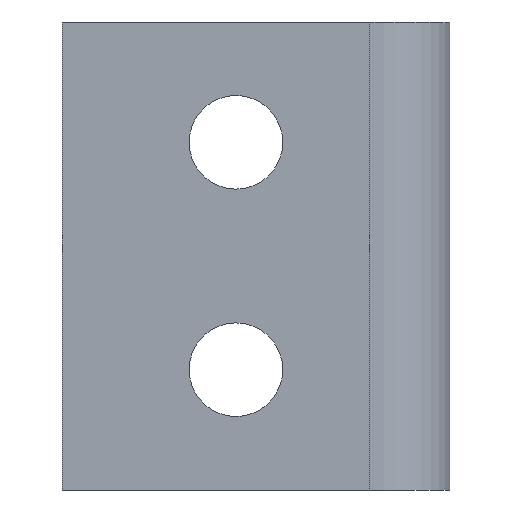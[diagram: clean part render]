
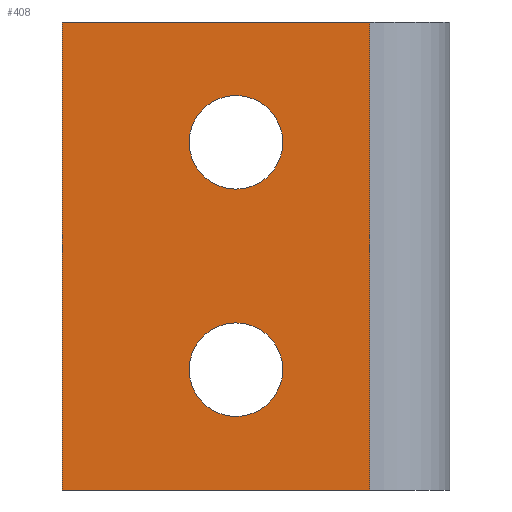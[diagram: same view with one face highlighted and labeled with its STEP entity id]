
A CAD part, front view. The second image highlights one B-rep face of the part: STEP entity #408.
In plain terms, the highlighted planar face has unit normal (0, -1, 0).
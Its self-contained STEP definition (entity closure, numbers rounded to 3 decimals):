
#1 = VECTOR ( 'NONE', #251, 1000. ) ;
#7 = DIRECTION ( 'NONE',  ( 0., 0., 1. ) ) ;
#42 = ORIENTED_EDGE ( 'NONE', *, *, #132, .T. ) ;
#43 = CARTESIAN_POINT ( 'NONE',  ( 13., 0., -5.5 ) ) ;
#50 = LINE ( 'NONE', #204, #157 ) ;
#55 = AXIS2_PLACEMENT_3D ( 'NONE', #166, #167, #114 ) ;
#56 = EDGE_LOOP ( 'NONE', ( #42 ) ) ;
#65 = EDGE_CURVE ( 'NONE', #125, #144, #258, .T. ) ;
#70 = DIRECTION ( 'NONE',  ( 0., 0., 1. ) ) ;
#72 = CARTESIAN_POINT ( 'NONE',  ( 23., 0., -35. ) ) ;
#74 = CARTESIAN_POINT ( 'NONE',  ( 23., 0., -35. ) ) ;
#79 = DIRECTION ( 'NONE',  ( 0., -1., 0. ) ) ;
#82 = ORIENTED_EDGE ( 'NONE', *, *, #107, .T. ) ;
#87 = CARTESIAN_POINT ( 'NONE',  ( 0., 0., -35. ) ) ;
#105 = CARTESIAN_POINT ( 'NONE',  ( 23., 0., 0. ) ) ;
#107 = EDGE_CURVE ( 'NONE', #226, #125, #290, .T. ) ;
#114 = DIRECTION ( 'NONE',  ( 0., 0., 1. ) ) ;
#125 = VERTEX_POINT ( 'NONE', #72 ) ;
#132 = EDGE_CURVE ( 'NONE', #229, #229, #400, .T. ) ;
#139 = DIRECTION ( 'NONE',  ( 1., 0., 0. ) ) ;
#144 = VERTEX_POINT ( 'NONE', #105 ) ;
#157 = VECTOR ( 'NONE', #7, 1000. ) ;
#166 = CARTESIAN_POINT ( 'NONE',  ( 13., 0., -9. ) ) ;
#167 = DIRECTION ( 'NONE',  ( 0., 1., 0. ) ) ;
#178 = CARTESIAN_POINT ( 'NONE',  ( 0., 0., 0. ) ) ;
#179 = ORIENTED_EDGE ( 'NONE', *, *, #224, .F. ) ;
#182 = ORIENTED_EDGE ( 'NONE', *, *, #344, .F. ) ;
#186 = ORIENTED_EDGE ( 'NONE', *, *, #65, .T. ) ;
#204 = CARTESIAN_POINT ( 'NONE',  ( 0., 0., -35. ) ) ;
#208 = CARTESIAN_POINT ( 'NONE',  ( 0., 0., -35. ) ) ;
#217 = VECTOR ( 'NONE', #256, 1000. ) ;
#224 = EDGE_CURVE ( 'NONE', #244, #144, #404, .T. ) ;
#226 = VERTEX_POINT ( 'NONE', #87 ) ;
#229 = VERTEX_POINT ( 'NONE', #356 ) ;
#244 = VERTEX_POINT ( 'NONE', #265 ) ;
#251 = DIRECTION ( 'NONE',  ( 0., 0., 1. ) ) ;
#256 = DIRECTION ( 'NONE',  ( 1., 0., 0. ) ) ;
#258 = LINE ( 'NONE', #74, #1 ) ;
#265 = CARTESIAN_POINT ( 'NONE',  ( 0., 0., 0. ) ) ;
#270 = CIRCLE ( 'NONE', #55, 3.5 ) ;
#273 = ORIENTED_EDGE ( 'NONE', *, *, #324, .T. ) ;
#279 = VECTOR ( 'NONE', #139, 1000. ) ;
#290 = LINE ( 'NONE', #416, #217 ) ;
#291 = FACE_OUTER_BOUND ( 'NONE', #305, .T. ) ;
#305 = EDGE_LOOP ( 'NONE', ( #179, #182, #82, #186 ) ) ;
#311 = EDGE_LOOP ( 'NONE', ( #273 ) ) ;
#317 = AXIS2_PLACEMENT_3D ( 'NONE', #393, #386, #70 ) ;
#322 = VERTEX_POINT ( 'NONE', #43 ) ;
#324 = EDGE_CURVE ( 'NONE', #322, #322, #270, .T. ) ;
#326 = FACE_BOUND ( 'NONE', #311, .T. ) ;
#329 = DIRECTION ( 'NONE',  ( 0., 0., -1. ) ) ;
#333 = FACE_BOUND ( 'NONE', #56, .T. ) ;
#344 = EDGE_CURVE ( 'NONE', #226, #244, #50, .T. ) ;
#351 = AXIS2_PLACEMENT_3D ( 'NONE', #208, #79, #329 ) ;
#356 = CARTESIAN_POINT ( 'NONE',  ( 13., 0., -22.5 ) ) ;
#365 = PLANE ( 'NONE',  #351 ) ;
#386 = DIRECTION ( 'NONE',  ( 0., 1., 0. ) ) ;
#393 = CARTESIAN_POINT ( 'NONE',  ( 13., 0., -26. ) ) ;
#400 = CIRCLE ( 'NONE', #317, 3.5 ) ;
#404 = LINE ( 'NONE', #178, #279 ) ;
#408 = ADVANCED_FACE ( 'NONE', ( #333, #326, #291 ), #365, .T. ) ;
#416 = CARTESIAN_POINT ( 'NONE',  ( 0., 0., -35. ) ) ;
